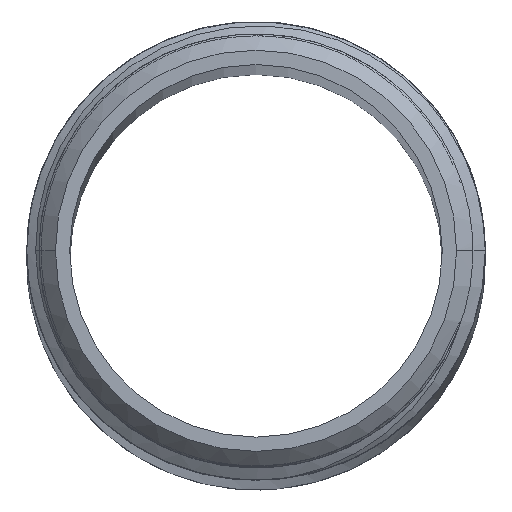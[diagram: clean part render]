
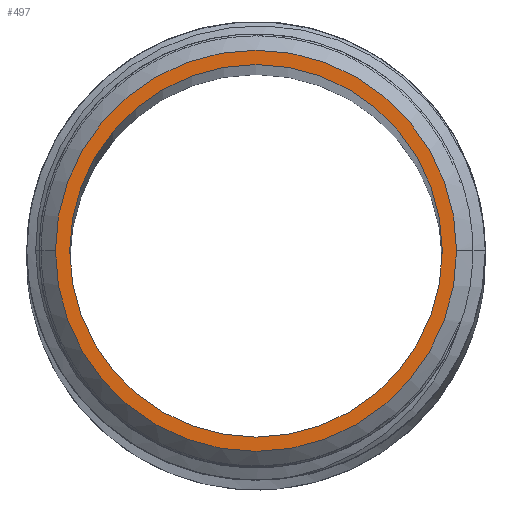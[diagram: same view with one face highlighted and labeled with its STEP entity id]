
A CAD part, top view. The second image highlights one B-rep face of the part: STEP entity #497.
In plain terms, the highlighted planar face has unit normal (0, 0, 1).
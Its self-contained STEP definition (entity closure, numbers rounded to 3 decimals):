
#54 = EDGE_LOOP ( 'NONE', ( #453, #444 ) ) ;
#55 = EDGE_LOOP ( 'NONE', ( #457, #450 ) ) ;
#77 = CIRCLE ( 'NONE', #180, 6.5 ) ;
#82 = FACE_BOUND ( 'NONE', #54, .T. ) ;
#88 = FACE_OUTER_BOUND ( 'NONE', #55, .T. ) ;
#95 = EDGE_CURVE ( 'NONE', #1583, #1611, #77, .T. ) ;
#143 = EDGE_CURVE ( 'NONE', #1631, #1633, #3023, .T. ) ;
#144 = EDGE_CURVE ( 'NONE', #1611, #1583, #3025, .T. ) ;
#169 = EDGE_CURVE ( 'NONE', #1633, #1631, #3042, .T. ) ;
#180 = AXIS2_PLACEMENT_3D ( 'NONE', #813, #815, #817 ) ;
#192 = AXIS2_PLACEMENT_3D ( 'NONE', #1434, #1478, #1457 ) ;
#193 = AXIS2_PLACEMENT_3D ( 'NONE', #1265, #1272, #1263 ) ;
#195 = AXIS2_PLACEMENT_3D ( 'NONE', #1266, #1242, #1252 ) ;
#228 = AXIS2_PLACEMENT_3D ( 'NONE', #1743, #1746, #1748 ) ;
#444 = ORIENTED_EDGE ( 'NONE', *, *, #95, .F. ) ;
#450 = ORIENTED_EDGE ( 'NONE', *, *, #143, .T. ) ;
#453 = ORIENTED_EDGE ( 'NONE', *, *, #144, .F. ) ;
#457 = ORIENTED_EDGE ( 'NONE', *, *, #169, .T. ) ;
#497 = ADVANCED_FACE ( 'NONE', ( #88, #82 ), #1750, .T. ) ;
#504 = CARTESIAN_POINT ( 'NONE',  ( 6.5, 0., 200. ) ) ;
#505 = CARTESIAN_POINT ( 'NONE',  ( -7., 0., 200. ) ) ;
#523 = CARTESIAN_POINT ( 'NONE',  ( 7., 0., 200. ) ) ;
#813 = CARTESIAN_POINT ( 'NONE',  ( 0., 0., 200. ) ) ;
#815 = DIRECTION ( 'NONE',  ( 0., 0., 1. ) ) ;
#817 = DIRECTION ( 'NONE',  ( 1., 0., 0. ) ) ;
#1242 = DIRECTION ( 'NONE',  ( 0., 0., 1. ) ) ;
#1252 = DIRECTION ( 'NONE',  ( 1., 0., 0. ) ) ;
#1263 = DIRECTION ( 'NONE',  ( 1., 0., 0. ) ) ;
#1265 = CARTESIAN_POINT ( 'NONE',  ( 0., 0., 200. ) ) ;
#1266 = CARTESIAN_POINT ( 'NONE',  ( 0., 0., 200. ) ) ;
#1272 = DIRECTION ( 'NONE',  ( 0., 0., 1. ) ) ;
#1434 = CARTESIAN_POINT ( 'NONE',  ( 0., 0., 200. ) ) ;
#1457 = DIRECTION ( 'NONE',  ( 1., 0., 0. ) ) ;
#1478 = DIRECTION ( 'NONE',  ( 0., 0., 1. ) ) ;
#1583 = VERTEX_POINT ( 'NONE', #1755 ) ;
#1611 = VERTEX_POINT ( 'NONE', #504 ) ;
#1631 = VERTEX_POINT ( 'NONE', #523 ) ;
#1633 = VERTEX_POINT ( 'NONE', #505 ) ;
#1743 = CARTESIAN_POINT ( 'NONE',  ( 0., 0., 200. ) ) ;
#1746 = DIRECTION ( 'NONE',  ( 0., 0., 1. ) ) ;
#1748 = DIRECTION ( 'NONE',  ( 1., 0., 0. ) ) ;
#1750 = PLANE ( 'NONE',  #228 ) ;
#1755 = CARTESIAN_POINT ( 'NONE',  ( -6.5, 0., 200. ) ) ;
#3023 = CIRCLE ( 'NONE', #193, 7. ) ;
#3025 = CIRCLE ( 'NONE', #195, 6.5 ) ;
#3042 = CIRCLE ( 'NONE', #192, 7. ) ;
